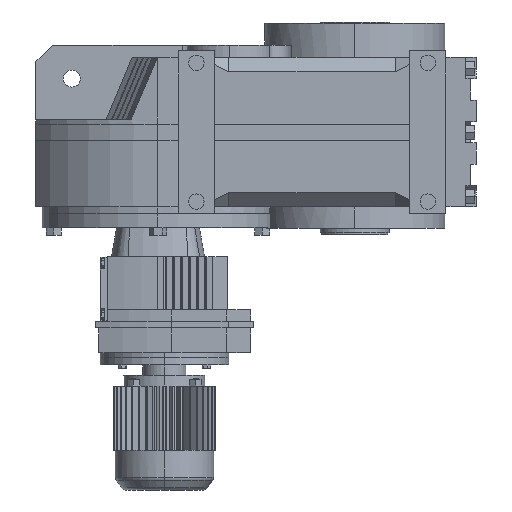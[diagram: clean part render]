
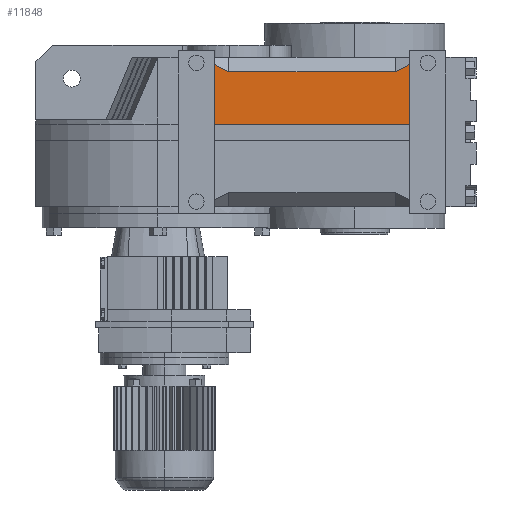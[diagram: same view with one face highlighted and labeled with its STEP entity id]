
A CAD part, left-side view. The second image highlights one B-rep face of the part: STEP entity #11848.
In plain terms, the highlighted planar face has unit normal (-1, 0, 0).
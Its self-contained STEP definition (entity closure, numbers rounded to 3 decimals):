
#363 = PLANE('',#364);
#364 = AXIS2_PLACEMENT_3D('',#365,#366,#367);
#365 = CARTESIAN_POINT('',(-207.36,-489.6,0.75));
#366 = DIRECTION('',(0.,1.,0.));
#367 = DIRECTION('',(-1.,0.,0.));
#475 = PLANE('',#476);
#476 = AXIS2_PLACEMENT_3D('',#477,#478,#479);
#477 = CARTESIAN_POINT('',(-207.36,-109.6,0.75));
#478 = DIRECTION('',(0.,-1.,0.));
#479 = DIRECTION('',(1.,0.,0.));
#4019 = VERTEX_POINT('',#4020);
#4020 = CARTESIAN_POINT('',(-252.36,-109.6,174.55));
#4034 = PLANE('',#4035);
#4035 = AXIS2_PLACEMENT_3D('',#4036,#4037,#4038);
#4036 = CARTESIAN_POINT('',(24.115,1.,174.55));
#4037 = DIRECTION('',(0.,0.,-1.));
#4038 = DIRECTION('',(-1.,0.,0.));
#4046 = EDGE_CURVE('',#4047,#4019,#4049,.T.);
#4047 = VERTEX_POINT('',#4048);
#4048 = CARTESIAN_POINT('',(-252.36,-109.6,290.522));
#4049 = SURFACE_CURVE('',#4050,(#4054,#4061),.PCURVE_S1.);
#4050 = LINE('',#4051,#4052);
#4051 = CARTESIAN_POINT('',(-252.36,-109.6,304.11));
#4052 = VECTOR('',#4053,1.);
#4053 = DIRECTION('',(0.,0.,-1.));
#4054 = PCURVE('',#475,#4055);
#4055 = DEFINITIONAL_REPRESENTATION('',(#4056),#4060);
#4056 = LINE('',#4057,#4058);
#4057 = CARTESIAN_POINT('',(-45.,303.36));
#4058 = VECTOR('',#4059,1.);
#4059 = DIRECTION('',(0.,-1.));
#4060 = ( GEOMETRIC_REPRESENTATION_CONTEXT(2) 
PARAMETRIC_REPRESENTATION_CONTEXT() REPRESENTATION_CONTEXT('2D SPACE',''
  ) );
#4061 = PCURVE('',#4062,#4067);
#4062 = PLANE('',#4063);
#4063 = AXIS2_PLACEMENT_3D('',#4064,#4065,#4066);
#4064 = CARTESIAN_POINT('',(-252.36,-618.6,304.11));
#4065 = DIRECTION('',(1.,0.,0.));
#4066 = DIRECTION('',(0.,1.,0.));
#4067 = DEFINITIONAL_REPRESENTATION('',(#4068),#4072);
#4068 = LINE('',#4069,#4070);
#4069 = CARTESIAN_POINT('',(509.,0.));
#4070 = VECTOR('',#4071,1.);
#4071 = DIRECTION('',(0.,-1.));
#4072 = ( GEOMETRIC_REPRESENTATION_CONTEXT(2) 
PARAMETRIC_REPRESENTATION_CONTEXT() REPRESENTATION_CONTEXT('2D SPACE',''
  ) );
#4090 = PLANE('',#4091);
#4091 = AXIS2_PLACEMENT_3D('',#4092,#4093,#4094);
#4092 = CARTESIAN_POINT('',(-374.746,-109.6,168.136));
#4093 = DIRECTION('',(-0.664,-0.342,0.664));
#4094 = DIRECTION('',(0.707,0.,0.707)
  );
#4409 = VERTEX_POINT('',#4410);
#4410 = CARTESIAN_POINT('',(-252.36,-489.6,290.522));
#4424 = PLANE('',#4425);
#4425 = AXIS2_PLACEMENT_3D('',#4426,#4427,#4428);
#4426 = CARTESIAN_POINT('',(-374.746,-489.6,168.136));
#4427 = DIRECTION('',(-0.664,0.342,0.664));
#4428 = DIRECTION('',(0.707,0.,0.707
    ));
#4436 = EDGE_CURVE('',#4437,#4409,#4439,.T.);
#4437 = VERTEX_POINT('',#4438);
#4438 = CARTESIAN_POINT('',(-252.36,-489.6,174.55));
#4439 = SURFACE_CURVE('',#4440,(#4444,#4451),.PCURVE_S1.);
#4440 = LINE('',#4441,#4442);
#4441 = CARTESIAN_POINT('',(-252.36,-489.6,304.11));
#4442 = VECTOR('',#4443,1.);
#4443 = DIRECTION('',(0.,0.,1.));
#4444 = PCURVE('',#363,#4445);
#4445 = DEFINITIONAL_REPRESENTATION('',(#4446),#4450);
#4446 = LINE('',#4447,#4448);
#4447 = CARTESIAN_POINT('',(45.,303.36));
#4448 = VECTOR('',#4449,1.);
#4449 = DIRECTION('',(0.,1.));
#4450 = ( GEOMETRIC_REPRESENTATION_CONTEXT(2) 
PARAMETRIC_REPRESENTATION_CONTEXT() REPRESENTATION_CONTEXT('2D SPACE',''
  ) );
#4451 = PCURVE('',#4062,#4452);
#4452 = DEFINITIONAL_REPRESENTATION('',(#4453),#4457);
#4453 = LINE('',#4454,#4455);
#4454 = CARTESIAN_POINT('',(129.,0.));
#4455 = VECTOR('',#4456,1.);
#4456 = DIRECTION('',(0.,1.));
#4457 = ( GEOMETRIC_REPRESENTATION_CONTEXT(2) 
PARAMETRIC_REPRESENTATION_CONTEXT() REPRESENTATION_CONTEXT('2D SPACE',''
  ) );
#6167 = PLANE('',#6168);
#6168 = AXIS2_PLACEMENT_3D('',#6169,#6170,#6171);
#6169 = CARTESIAN_POINT('',(-224.36,1.,304.11));
#6170 = DIRECTION('',(-0.707,0.,
    0.707));
#6171 = DIRECTION('',(0.707,0.,0.707)
  );
#11619 = EDGE_CURVE('',#4437,#4019,#11620,.T.);
#11620 = SURFACE_CURVE('',#11621,(#11625,#11632),.PCURVE_S1.);
#11621 = LINE('',#11622,#11623);
#11622 = CARTESIAN_POINT('',(-252.36,-618.6,174.55));
#11623 = VECTOR('',#11624,1.);
#11624 = DIRECTION('',(0.,1.,0.));
#11625 = PCURVE('',#4034,#11626);
#11626 = DEFINITIONAL_REPRESENTATION('',(#11627),#11631);
#11627 = LINE('',#11628,#11629);
#11628 = CARTESIAN_POINT('',(276.475,-619.6));
#11629 = VECTOR('',#11630,1.);
#11630 = DIRECTION('',(0.,1.));
#11631 = ( GEOMETRIC_REPRESENTATION_CONTEXT(2) 
PARAMETRIC_REPRESENTATION_CONTEXT() REPRESENTATION_CONTEXT('2D SPACE',''
  ) );
#11632 = PCURVE('',#4062,#11633);
#11633 = DEFINITIONAL_REPRESENTATION('',(#11634),#11638);
#11634 = LINE('',#11635,#11636);
#11635 = CARTESIAN_POINT('',(0.,-129.56));
#11636 = VECTOR('',#11637,1.);
#11637 = DIRECTION('',(1.,0.));
#11638 = ( GEOMETRIC_REPRESENTATION_CONTEXT(2) 
PARAMETRIC_REPRESENTATION_CONTEXT() REPRESENTATION_CONTEXT('2D SPACE',''
  ) );
#11680 = EDGE_CURVE('',#11681,#4047,#11683,.T.);
#11681 = VERTEX_POINT('',#11682);
#11682 = CARTESIAN_POINT('',(-252.36,-137.6,276.11));
#11683 = SURFACE_CURVE('',#11684,(#11688,#11695),.PCURVE_S1.);
#11684 = LINE('',#11685,#11686);
#11685 = CARTESIAN_POINT('',(-252.36,-506.459,86.247));
#11686 = VECTOR('',#11687,1.);
#11687 = DIRECTION('',(0.,0.889,
    0.458));
#11688 = PCURVE('',#4090,#11689);
#11689 = DEFINITIONAL_REPRESENTATION('',(#11690),#11694);
#11690 = LINE('',#11691,#11692);
#11691 = CARTESIAN_POINT('',(28.635,-422.328));
#11692 = VECTOR('',#11693,1.);
#11693 = DIRECTION('',(0.324,0.946));
#11694 = ( GEOMETRIC_REPRESENTATION_CONTEXT(2) 
PARAMETRIC_REPRESENTATION_CONTEXT() REPRESENTATION_CONTEXT('2D SPACE',''
  ) );
#11695 = PCURVE('',#4062,#11696);
#11696 = DEFINITIONAL_REPRESENTATION('',(#11697),#11701);
#11697 = LINE('',#11698,#11699);
#11698 = CARTESIAN_POINT('',(112.141,-217.863));
#11699 = VECTOR('',#11700,1.);
#11700 = DIRECTION('',(0.889,0.458));
#11701 = ( GEOMETRIC_REPRESENTATION_CONTEXT(2) 
PARAMETRIC_REPRESENTATION_CONTEXT() REPRESENTATION_CONTEXT('2D SPACE',''
  ) );
#11848 = ADVANCED_FACE('',(#11849),#4062,.F.);
#11849 = FACE_BOUND('',#11850,.T.);
#11850 = EDGE_LOOP('',(#11851,#11852,#11875,#11896,#11897,#11898));
#11851 = ORIENTED_EDGE('',*,*,#4436,.T.);
#11852 = ORIENTED_EDGE('',*,*,#11853,.T.);
#11853 = EDGE_CURVE('',#4409,#11854,#11856,.T.);
#11854 = VERTEX_POINT('',#11855);
#11855 = CARTESIAN_POINT('',(-252.36,-461.6,276.11));
#11856 = SURFACE_CURVE('',#11857,(#11861,#11868),.PCURVE_S1.);
#11857 = LINE('',#11858,#11859);
#11858 = CARTESIAN_POINT('',(-252.36,-597.109,345.861));
#11859 = VECTOR('',#11860,1.);
#11860 = DIRECTION('',(0.,0.889,
    -0.458));
#11861 = PCURVE('',#4062,#11862);
#11862 = DEFINITIONAL_REPRESENTATION('',(#11863),#11867);
#11863 = LINE('',#11864,#11865);
#11864 = CARTESIAN_POINT('',(21.491,41.751));
#11865 = VECTOR('',#11866,1.);
#11866 = DIRECTION('',(0.889,-0.458));
#11867 = ( GEOMETRIC_REPRESENTATION_CONTEXT(2) 
PARAMETRIC_REPRESENTATION_CONTEXT() REPRESENTATION_CONTEXT('2D SPACE',''
  ) );
#11868 = PCURVE('',#4424,#11869);
#11869 = DEFINITIONAL_REPRESENTATION('',(#11870),#11874);
#11870 = LINE('',#11871,#11872);
#11871 = CARTESIAN_POINT('',(212.211,-114.409));
#11872 = VECTOR('',#11873,1.);
#11873 = DIRECTION('',(-0.324,0.946));
#11874 = ( GEOMETRIC_REPRESENTATION_CONTEXT(2) 
PARAMETRIC_REPRESENTATION_CONTEXT() REPRESENTATION_CONTEXT('2D SPACE',''
  ) );
#11875 = ORIENTED_EDGE('',*,*,#11876,.T.);
#11876 = EDGE_CURVE('',#11854,#11681,#11877,.T.);
#11877 = SURFACE_CURVE('',#11878,(#11882,#11889),.PCURVE_S1.);
#11878 = LINE('',#11879,#11880);
#11879 = CARTESIAN_POINT('',(-252.36,-109.6,276.11));
#11880 = VECTOR('',#11881,1.);
#11881 = DIRECTION('',(0.,1.,0.));
#11882 = PCURVE('',#4062,#11883);
#11883 = DEFINITIONAL_REPRESENTATION('',(#11884),#11888);
#11884 = LINE('',#11885,#11886);
#11885 = CARTESIAN_POINT('',(509.,-28.));
#11886 = VECTOR('',#11887,1.);
#11887 = DIRECTION('',(1.,0.));
#11888 = ( GEOMETRIC_REPRESENTATION_CONTEXT(2) 
PARAMETRIC_REPRESENTATION_CONTEXT() REPRESENTATION_CONTEXT('2D SPACE',''
  ) );
#11889 = PCURVE('',#6167,#11890);
#11890 = DEFINITIONAL_REPRESENTATION('',(#11891),#11895);
#11891 = LINE('',#11892,#11893);
#11892 = CARTESIAN_POINT('',(-39.598,-110.6));
#11893 = VECTOR('',#11894,1.);
#11894 = DIRECTION('',(0.,1.));
#11895 = ( GEOMETRIC_REPRESENTATION_CONTEXT(2) 
PARAMETRIC_REPRESENTATION_CONTEXT() REPRESENTATION_CONTEXT('2D SPACE',''
  ) );
#11896 = ORIENTED_EDGE('',*,*,#11680,.T.);
#11897 = ORIENTED_EDGE('',*,*,#4046,.T.);
#11898 = ORIENTED_EDGE('',*,*,#11619,.F.);
